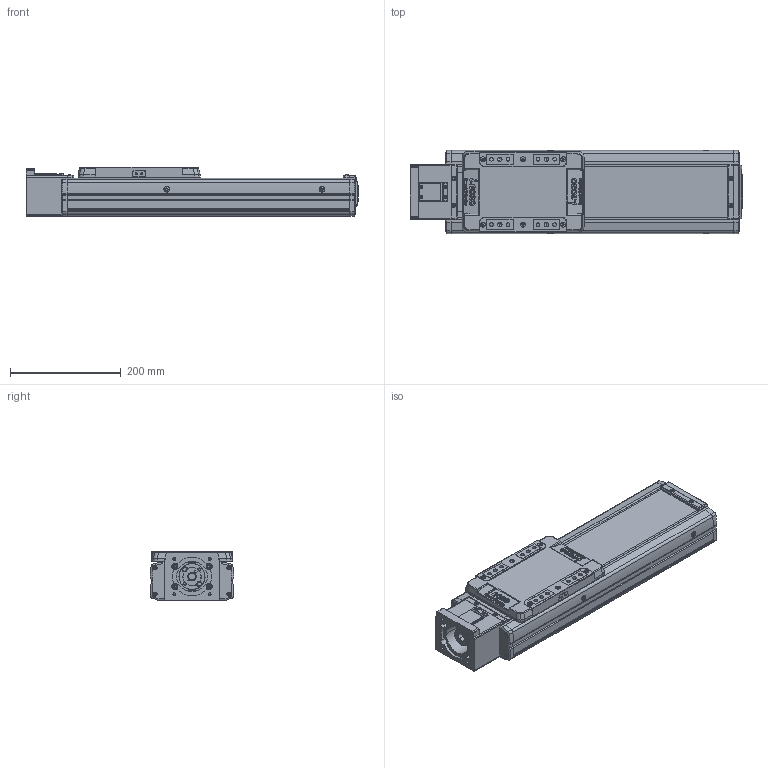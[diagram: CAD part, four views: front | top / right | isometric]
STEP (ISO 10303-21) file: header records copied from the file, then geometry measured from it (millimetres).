
FILE_DESCRIPTION(('STEP AP214'),'1');
FILE_NAME('Z:/Web/3D/SAN150/2013.04 (STP.)/SAN150ㅁㅁ-250S.stp','2013-05-08T02:22:29',(' '),(' '),'Spatial InterOp 3D',' ',' ');
FILE_SCHEMA(('automotive_design'));
Length unit declared in the file: millimetre
Products named in the file (75): SLBL-SAN150; SLCV-SAN150; FHCS M4.0 x 8.0; BHCS M4.0 x 10.0; SFX-SAN150; RRCV-SAN150; FRBL-SAN150; Spacer; RN15; FRCV-SAN150; Screw 20; BASE-SAN150-000L ; SUS COVER; 스크루 : Round - M5.0 x 6.0; BHCS M3.0 x 6.0; SSFX-SAN65; CPLCV-SAN65; SDWA47C(2); SDWA47C(3-1); SDWA47C(3); SDWA47C(1); SDWA47C(4); SDWA47C(5); MTHZ-SAN150-80
Bounding box: 599 x 150 x 90 mm (x, y, z)
Volume: 3840639.8 mm3; surface area: 744588.3 mm2
Topology: 75 solids, 75 shells, 2771 faces, 7201 edges, 4651 vertices
Faces by surface type: plane 1196, cylinder 1125, cone 349, sphere 56, bspline 29, torus 16
Entity records: 111734 total; most frequent: CARTESIAN_POINT 18012, DIRECTION 15679, ORIENTED_EDGE 14202, EDGE_CURVE 7101, AXIS2_PLACEMENT_3D 5901, VERTEX_POINT 4651, LINE 3877, VECTOR 3877
